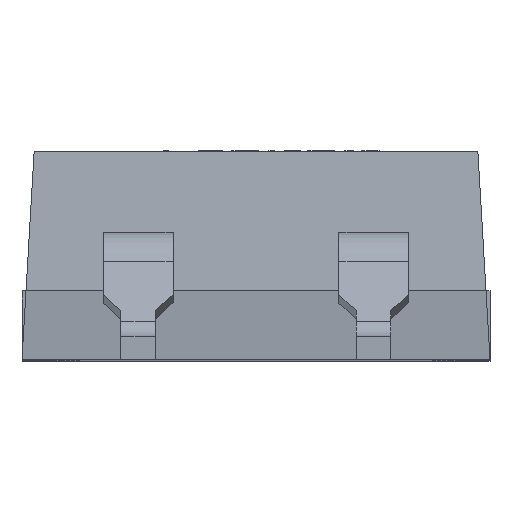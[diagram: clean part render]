
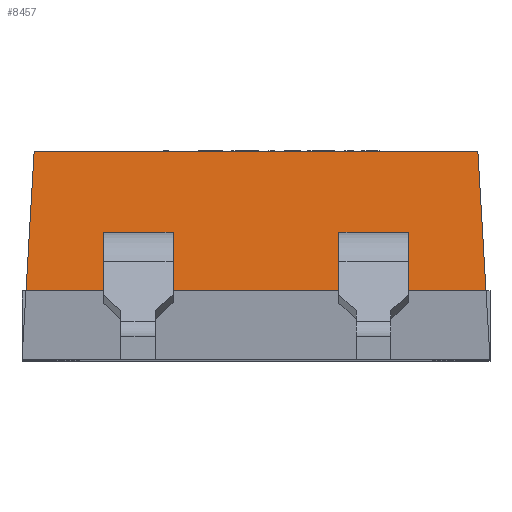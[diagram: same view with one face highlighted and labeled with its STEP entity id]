
A CAD part, top view. The second image highlights one B-rep face of the part: STEP entity #8457.
In plain terms, the highlighted planar face has unit normal (0, 0.087, 0.996).
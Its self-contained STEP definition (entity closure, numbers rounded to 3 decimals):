
#906 = VERTEX_POINT ( 'NONE', #5143 ) ;
#1018 = DIRECTION ( 'NONE',  ( -1., 0., 0. ) ) ;
#1243 = EDGE_LOOP ( 'NONE', ( #7363, #10155, #12275, #10846 ) ) ;
#1641 = VECTOR ( 'NONE', #6391, 1000. ) ;
#2006 = VERTEX_POINT ( 'NONE', #4971 ) ;
#2173 = DIRECTION ( 'NONE',  ( -0.058, -0.995, 0.087 ) ) ;
#2502 = VERTEX_POINT ( 'NONE', #7223 ) ;
#2524 = CARTESIAN_POINT ( 'NONE',  ( -5.045, -0.5, -16.816 ) ) ;
#2588 = VECTOR ( 'NONE', #2705, 1000. ) ;
#2705 = DIRECTION ( 'NONE',  ( -1., 0., 0. ) ) ;
#2854 = VECTOR ( 'NONE', #7127, 1000. ) ;
#2908 = CARTESIAN_POINT ( 'NONE',  ( -3.285, -1.25, -16.75 ) ) ;
#3026 = VERTEX_POINT ( 'NONE', #14821 ) ;
#3154 = CARTESIAN_POINT ( 'NONE',  ( 3.295, -1.25, -16.75 ) ) ;
#3349 = VERTEX_POINT ( 'NONE', #13653 ) ;
#3430 = ORIENTED_EDGE ( 'NONE', *, *, #16627, .T. ) ;
#3478 = EDGE_LOOP ( 'NONE', ( #15307, #4324, #5248, #14893 ) ) ;
#3660 = VECTOR ( 'NONE', #9378, 1000. ) ;
#3892 = EDGE_CURVE ( 'NONE', #15426, #3349, #16365, .T. ) ;
#3897 = CARTESIAN_POINT ( 'NONE',  ( -5.045, -1.25, -16.75 ) ) ;
#3982 = DIRECTION ( 'NONE',  ( 0., 0.087, 0.996 ) ) ;
#4324 = ORIENTED_EDGE ( 'NONE', *, *, #6140, .T. ) ;
#4475 = LINE ( 'NONE', #3154, #7621 ) ;
#4971 = CARTESIAN_POINT ( 'NONE',  ( 1.795, -0.5, -16.816 ) ) ;
#4997 = CARTESIAN_POINT ( 'NONE',  ( -4.783, 1.75, -17.012 ) ) ;
#5084 = DIRECTION ( 'NONE',  ( 0., 0.996, -0.087 ) ) ;
#5135 = VERTEX_POINT ( 'NONE', #13163 ) ;
#5143 = CARTESIAN_POINT ( 'NONE',  ( -3.285, -0.5, -16.816 ) ) ;
#5248 = ORIENTED_EDGE ( 'NONE', *, *, #11075, .T. ) ;
#5262 = LINE ( 'NONE', #7978, #2588 ) ;
#5341 = CARTESIAN_POINT ( 'NONE',  ( -1.785, -0.5, -16.816 ) ) ;
#5697 = DIRECTION ( 'NONE',  ( 1., 0., 0. ) ) ;
#5796 = EDGE_CURVE ( 'NONE', #9928, #3026, #10039, .T. ) ;
#5806 = ORIENTED_EDGE ( 'NONE', *, *, #5796, .F. ) ;
#5838 = VECTOR ( 'NONE', #5697, 1000. ) ;
#6140 = EDGE_CURVE ( 'NONE', #2502, #13458, #4475, .T. ) ;
#6175 = CARTESIAN_POINT ( 'NONE',  ( -5.045, 0., -16.859 ) ) ;
#6296 = ORIENTED_EDGE ( 'NONE', *, *, #7060, .T. ) ;
#6305 = CARTESIAN_POINT ( 'NONE',  ( -4.958, -1.255, -16.75 ) ) ;
#6391 = DIRECTION ( 'NONE',  ( -0.058, 0.995, -0.087 ) ) ;
#6480 = LINE ( 'NONE', #12989, #1641 ) ;
#7060 = EDGE_CURVE ( 'NONE', #9928, #15532, #13942, .T. ) ;
#7127 = DIRECTION ( 'NONE',  ( 1., 0., 0. ) ) ;
#7220 = EDGE_LOOP ( 'NONE', ( #5806, #6296, #3430, #12890 ) ) ;
#7223 = CARTESIAN_POINT ( 'NONE',  ( 3.295, 0., -16.859 ) ) ;
#7363 = ORIENTED_EDGE ( 'NONE', *, *, #3892, .F. ) ;
#7372 = DIRECTION ( 'NONE',  ( 0., -0.996, 0.087 ) ) ;
#7621 = VECTOR ( 'NONE', #7372, 1000. ) ;
#7631 = EDGE_CURVE ( 'NONE', #16315, #14930, #15024, .T. ) ;
#7763 = EDGE_CURVE ( 'NONE', #2502, #5135, #8847, .T. ) ;
#7978 = CARTESIAN_POINT ( 'NONE',  ( -5.045, -0.5, -16.816 ) ) ;
#8457 = ADVANCED_FACE ( 'NONE', ( #10660, #10579, #16119 ), #16033, .T. ) ;
#8809 = DIRECTION ( 'NONE',  ( -1., 0., 0. ) ) ;
#8847 = LINE ( 'NONE', #14405, #9470 ) ;
#8860 = LINE ( 'NONE', #10448, #9824 ) ;
#8981 = EDGE_CURVE ( 'NONE', #14930, #3349, #6480, .T. ) ;
#9378 = DIRECTION ( 'NONE',  ( -1., 0., 0. ) ) ;
#9470 = VECTOR ( 'NONE', #1018, 1000. ) ;
#9788 = EDGE_CURVE ( 'NONE', #906, #3026, #17337, .T. ) ;
#9824 = VECTOR ( 'NONE', #5084, 1000. ) ;
#9928 = VERTEX_POINT ( 'NONE', #13012 ) ;
#10039 = LINE ( 'NONE', #6175, #14815 ) ;
#10155 = ORIENTED_EDGE ( 'NONE', *, *, #11297, .T. ) ;
#10172 = LINE ( 'NONE', #6305, #14964 ) ;
#10448 = CARTESIAN_POINT ( 'NONE',  ( 1.795, -1.25, -16.75 ) ) ;
#10579 = FACE_OUTER_BOUND ( 'NONE', #1243, .T. ) ;
#10660 = FACE_BOUND ( 'NONE', #3478, .T. ) ;
#10846 = ORIENTED_EDGE ( 'NONE', *, *, #8981, .T. ) ;
#11075 = EDGE_CURVE ( 'NONE', #13458, #2006, #5262, .T. ) ;
#11297 = EDGE_CURVE ( 'NONE', #15426, #16315, #10172, .T. ) ;
#11907 = CARTESIAN_POINT ( 'NONE',  ( 3.295, -0.5, -16.816 ) ) ;
#11965 = DIRECTION ( 'NONE',  ( 0., 0.996, -0.087 ) ) ;
#12275 = ORIENTED_EDGE ( 'NONE', *, *, #7631, .T. ) ;
#12584 = AXIS2_PLACEMENT_3D ( 'NONE', #3897, #3982, #13481 ) ;
#12890 = ORIENTED_EDGE ( 'NONE', *, *, #9788, .T. ) ;
#12989 = CARTESIAN_POINT ( 'NONE',  ( 4.934, -0.672, -16.801 ) ) ;
#13012 = CARTESIAN_POINT ( 'NONE',  ( -1.785, 0., -16.859 ) ) ;
#13163 = CARTESIAN_POINT ( 'NONE',  ( 1.795, 0., -16.859 ) ) ;
#13458 = VERTEX_POINT ( 'NONE', #11907 ) ;
#13481 = DIRECTION ( 'NONE',  ( 0., -0.996, 0.087 ) ) ;
#13524 = LINE ( 'NONE', #2524, #3660 ) ;
#13531 = CARTESIAN_POINT ( 'NONE',  ( -5.045, -1.25, -16.75 ) ) ;
#13653 = CARTESIAN_POINT ( 'NONE',  ( 4.793, 1.75, -17.012 ) ) ;
#13942 = LINE ( 'NONE', #16490, #16072 ) ;
#14405 = CARTESIAN_POINT ( 'NONE',  ( -5.045, 0., -16.859 ) ) ;
#14815 = VECTOR ( 'NONE', #8809, 1000. ) ;
#14821 = CARTESIAN_POINT ( 'NONE',  ( -3.285, 0., -16.859 ) ) ;
#14893 = ORIENTED_EDGE ( 'NONE', *, *, #15451, .T. ) ;
#14930 = VERTEX_POINT ( 'NONE', #16807 ) ;
#14964 = VECTOR ( 'NONE', #2173, 1000. ) ;
#15024 = LINE ( 'NONE', #13531, #5838 ) ;
#15173 = DIRECTION ( 'NONE',  ( 0., -0.996, 0.087 ) ) ;
#15217 = CARTESIAN_POINT ( 'NONE',  ( -4.958, -1.25, -16.75 ) ) ;
#15307 = ORIENTED_EDGE ( 'NONE', *, *, #7763, .F. ) ;
#15426 = VERTEX_POINT ( 'NONE', #4997 ) ;
#15451 = EDGE_CURVE ( 'NONE', #2006, #5135, #8860, .T. ) ;
#15532 = VERTEX_POINT ( 'NONE', #5341 ) ;
#16033 = PLANE ( 'NONE',  #12584 ) ;
#16072 = VECTOR ( 'NONE', #15173, 1000. ) ;
#16119 = FACE_BOUND ( 'NONE', #7220, .T. ) ;
#16315 = VERTEX_POINT ( 'NONE', #15217 ) ;
#16365 = LINE ( 'NONE', #16626, #2854 ) ;
#16490 = CARTESIAN_POINT ( 'NONE',  ( -1.785, -1.25, -16.75 ) ) ;
#16626 = CARTESIAN_POINT ( 'NONE',  ( -5.045, 1.75, -17.012 ) ) ;
#16627 = EDGE_CURVE ( 'NONE', #15532, #906, #13524, .T. ) ;
#16666 = VECTOR ( 'NONE', #11965, 1000. ) ;
#16807 = CARTESIAN_POINT ( 'NONE',  ( 4.968, -1.25, -16.75 ) ) ;
#17337 = LINE ( 'NONE', #2908, #16666 ) ;
